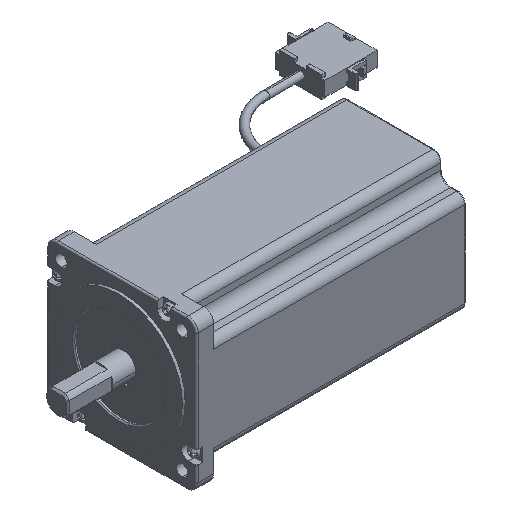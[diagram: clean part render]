
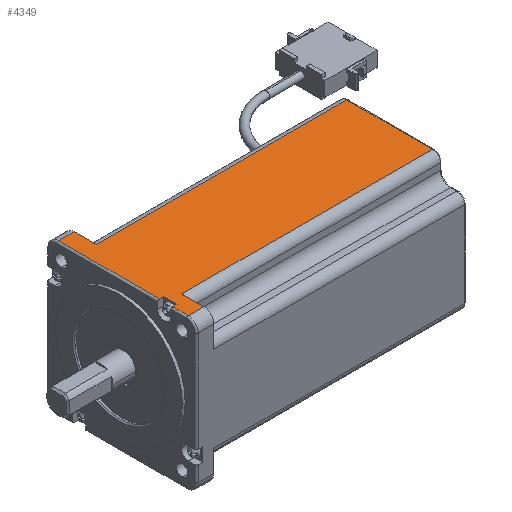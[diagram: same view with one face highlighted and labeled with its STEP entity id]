
A CAD part, isometric view. The second image highlights one B-rep face of the part: STEP entity #4349.
In plain terms, the highlighted planar face has unit normal (0, 0, 1) as drawn and (-1, 0, 0) by its records, which use the part's own axes.
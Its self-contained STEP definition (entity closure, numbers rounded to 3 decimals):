
#111 = CARTESIAN_POINT ( 'NONE',  ( -119.958, 164.16, -3.5 ) ) ;
#117 = EDGE_CURVE ( 'NONE', #2029, #3693, #5471, .T. ) ;
#326 = EDGE_CURVE ( 'NONE', #5340, #3693, #1121, .T. ) ;
#466 = ORIENTED_EDGE ( 'NONE', *, *, #326, .F. ) ;
#470 = EDGE_CURVE ( 'NONE', #8062, #5340, #3884, .T. ) ;
#496 = ORIENTED_EDGE ( 'NONE', *, *, #9114, .T. ) ;
#576 = VECTOR ( 'NONE', #6897, 1000. ) ;
#846 = ORIENTED_EDGE ( 'NONE', *, *, #3827, .T. ) ;
#863 = EDGE_CURVE ( 'NONE', #8062, #8052, #4403, .T. ) ;
#909 = CARTESIAN_POINT ( 'NONE',  ( -119.958, 100.46, -1. ) ) ;
#989 = DIRECTION ( 'NONE',  ( 0., 1., 0. ) ) ;
#1121 = LINE ( 'NONE', #4098, #3007 ) ;
#1250 = ORIENTED_EDGE ( 'NONE', *, *, #470, .F. ) ;
#1452 = ORIENTED_EDGE ( 'NONE', *, *, #6432, .T. ) ;
#1855 = LINE ( 'NONE', #3271, #2339 ) ;
#1987 = LINE ( 'NONE', #8577, #6172 ) ;
#2026 = VECTOR ( 'NONE', #8737, 1000. ) ;
#2029 = VERTEX_POINT ( 'NONE', #9292 ) ;
#2150 = CARTESIAN_POINT ( 'NONE',  ( -119.958, 171.76, 0. ) ) ;
#2214 = EDGE_CURVE ( 'NONE', #8052, #9540, #9109, .T. ) ;
#2339 = VECTOR ( 'NONE', #3547, 1000. ) ;
#2364 = CARTESIAN_POINT ( 'NONE',  ( -119.958, 180.76, -10. ) ) ;
#2384 = VECTOR ( 'NONE', #7647, 1000. ) ;
#2409 = DIRECTION ( 'NONE',  ( 0., 1., 0. ) ) ;
#2444 = CARTESIAN_POINT ( 'NONE',  ( -119.958, 187.155, -10. ) ) ;
#2483 = CARTESIAN_POINT ( 'NONE',  ( -119.958, 164.16, -1. ) ) ;
#2837 = VERTEX_POINT ( 'NONE', #111 ) ;
#2866 = CARTESIAN_POINT ( 'NONE',  ( -119.958, 171.76, -3.5 ) ) ;
#2954 = EDGE_CURVE ( 'NONE', #9324, #6739, #7860, .T. ) ;
#3007 = VECTOR ( 'NONE', #4075, 1000. ) ;
#3081 = EDGE_CURVE ( 'NONE', #6739, #8121, #4573, .T. ) ;
#3155 = CARTESIAN_POINT ( 'NONE',  ( -119.958, 168.06, -154. ) ) ;
#3271 = CARTESIAN_POINT ( 'NONE',  ( -119.958, 100.46, -3.5 ) ) ;
#3483 = FACE_OUTER_BOUND ( 'NONE', #8725, .T. ) ;
#3544 = EDGE_CURVE ( 'NONE', #8121, #8155, #6359, .T. ) ;
#3547 = DIRECTION ( 'NONE',  ( 0., 1., 0. ) ) ;
#3693 = VERTEX_POINT ( 'NONE', #6562 ) ;
#3823 = CARTESIAN_POINT ( 'NONE',  ( -119.958, 100.46, -154. ) ) ;
#3827 = EDGE_CURVE ( 'NONE', #8155, #2837, #1987, .T. ) ;
#3884 = LINE ( 'NONE', #2444, #4126 ) ;
#4060 = CARTESIAN_POINT ( 'NONE',  ( -119.958, 106.16, -1. ) ) ;
#4075 = DIRECTION ( 'NONE',  ( 0., 0., 1. ) ) ;
#4085 = EDGE_CURVE ( 'NONE', #2837, #5783, #1855, .T. ) ;
#4098 = CARTESIAN_POINT ( 'NONE',  ( -119.958, 180.76, 0. ) ) ;
#4126 = VECTOR ( 'NONE', #2409, 1000. ) ;
#4246 = CARTESIAN_POINT ( 'NONE',  ( -119.958, 106.16, -10. ) ) ;
#4349 = ADVANCED_FACE ( 'NONE', ( #3483 ), #6901, .T. ) ;
#4352 = DIRECTION ( 'NONE',  ( 0., -1., 0. ) ) ;
#4403 = LINE ( 'NONE', #8418, #2026 ) ;
#4573 = LINE ( 'NONE', #6917, #576 ) ;
#4905 = ORIENTED_EDGE ( 'NONE', *, *, #2954, .T. ) ;
#5340 = VERTEX_POINT ( 'NONE', #2364 ) ;
#5390 = ORIENTED_EDGE ( 'NONE', *, *, #3081, .T. ) ;
#5471 = LINE ( 'NONE', #7022, #9358 ) ;
#5497 = ORIENTED_EDGE ( 'NONE', *, *, #2214, .T. ) ;
#5564 = CARTESIAN_POINT ( 'NONE',  ( -119.958, 118.86, -154. ) ) ;
#5721 = ORIENTED_EDGE ( 'NONE', *, *, #3544, .T. ) ;
#5775 = VECTOR ( 'NONE', #8676, 1000. ) ;
#5783 = VERTEX_POINT ( 'NONE', #2866 ) ;
#5856 = CARTESIAN_POINT ( 'NONE',  ( -119.958, 118.86, 0. ) ) ;
#6132 = VECTOR ( 'NONE', #989, 1000. ) ;
#6156 = ORIENTED_EDGE ( 'NONE', *, *, #4085, .T. ) ;
#6172 = VECTOR ( 'NONE', #8534, 1000. ) ;
#6359 = LINE ( 'NONE', #909, #6132 ) ;
#6432 = EDGE_CURVE ( 'NONE', #5783, #2029, #8419, .T. ) ;
#6562 = CARTESIAN_POINT ( 'NONE',  ( -119.958, 180.76, -1. ) ) ;
#6739 = VERTEX_POINT ( 'NONE', #4246 ) ;
#6816 = CARTESIAN_POINT ( 'NONE',  ( -119.958, 118.86, -10. ) ) ;
#6822 = DIRECTION ( 'NONE',  ( 0., 0., 1. ) ) ;
#6879 = DIRECTION ( 'NONE',  ( -1., 0., 0. ) ) ;
#6897 = DIRECTION ( 'NONE',  ( 0., 0., 1. ) ) ;
#6901 = PLANE ( 'NONE',  #9202 ) ;
#6917 = CARTESIAN_POINT ( 'NONE',  ( -119.958, 106.16, 0. ) ) ;
#7022 = CARTESIAN_POINT ( 'NONE',  ( -119.958, 100.46, -1. ) ) ;
#7026 = VECTOR ( 'NONE', #4352, 1000. ) ;
#7040 = DIRECTION ( 'NONE',  ( 0., 1., 0. ) ) ;
#7072 = CARTESIAN_POINT ( 'NONE',  ( -119.958, 100.46, 0. ) ) ;
#7273 = VECTOR ( 'NONE', #9699, 1000. ) ;
#7647 = DIRECTION ( 'NONE',  ( 0., 0., 1. ) ) ;
#7851 = CARTESIAN_POINT ( 'NONE',  ( -119.958, 168.06, -10. ) ) ;
#7860 = LINE ( 'NONE', #8721, #5775 ) ;
#8052 = VERTEX_POINT ( 'NONE', #3155 ) ;
#8062 = VERTEX_POINT ( 'NONE', #7851 ) ;
#8121 = VERTEX_POINT ( 'NONE', #4060 ) ;
#8155 = VERTEX_POINT ( 'NONE', #2483 ) ;
#8418 = CARTESIAN_POINT ( 'NONE',  ( -119.958, 168.06, 0. ) ) ;
#8419 = LINE ( 'NONE', #2150, #2384 ) ;
#8534 = DIRECTION ( 'NONE',  ( 0., 0., -1. ) ) ;
#8577 = CARTESIAN_POINT ( 'NONE',  ( -119.958, 164.16, 0. ) ) ;
#8676 = DIRECTION ( 'NONE',  ( 0., -1., 0. ) ) ;
#8721 = CARTESIAN_POINT ( 'NONE',  ( -119.958, 100.46, -10. ) ) ;
#8725 = EDGE_LOOP ( 'NONE', ( #9789, #5497, #496, #4905, #5390, #5721, #846, #6156, #1452, #9023, #466, #1250 ) ) ;
#8737 = DIRECTION ( 'NONE',  ( 0., 0., -1. ) ) ;
#9023 = ORIENTED_EDGE ( 'NONE', *, *, #117, .T. ) ;
#9109 = LINE ( 'NONE', #3823, #7026 ) ;
#9114 = EDGE_CURVE ( 'NONE', #9540, #9324, #9335, .T. ) ;
#9202 = AXIS2_PLACEMENT_3D ( 'NONE', #7072, #6879, #6822 ) ;
#9292 = CARTESIAN_POINT ( 'NONE',  ( -119.958, 171.76, -1. ) ) ;
#9324 = VERTEX_POINT ( 'NONE', #6816 ) ;
#9335 = LINE ( 'NONE', #5856, #7273 ) ;
#9358 = VECTOR ( 'NONE', #7040, 1000. ) ;
#9540 = VERTEX_POINT ( 'NONE', #5564 ) ;
#9699 = DIRECTION ( 'NONE',  ( 0., 0., 1. ) ) ;
#9789 = ORIENTED_EDGE ( 'NONE', *, *, #863, .T. ) ;
